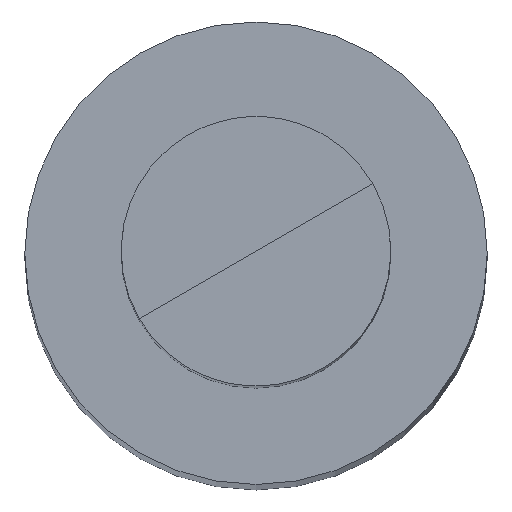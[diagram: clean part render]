
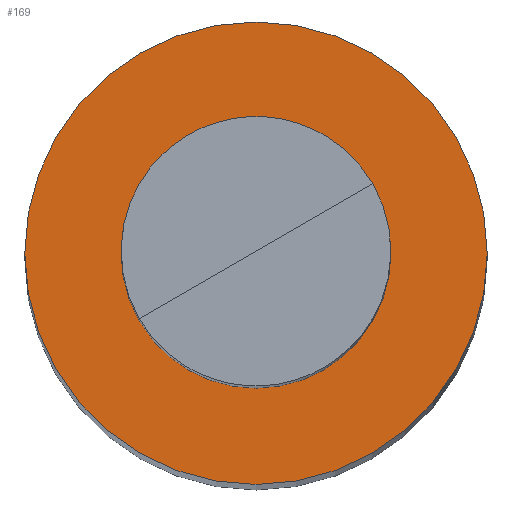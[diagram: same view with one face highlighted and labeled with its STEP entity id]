
A CAD part, top view. The second image highlights one B-rep face of the part: STEP entity #169.
In plain terms, the highlighted planar face has unit normal (0, 0, 1).
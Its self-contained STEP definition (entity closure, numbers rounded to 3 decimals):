
#108=CARTESIAN_POINT('',(1.75,0.,41.));
#109=VERTEX_POINT('',#108);
#110=CARTESIAN_POINT('',(0.0,0.0,41.));
#111=DIRECTION('',(0.0,0.0,-1.0));
#112=DIRECTION('',(-1.0,0.0,0.0));
#113=AXIS2_PLACEMENT_3D('',#110,#111,#112);
#114=CIRCLE('',#113,1.75);
#115=EDGE_CURVE('',#109,#109,#114,.T.);
#135=CARTESIAN_POINT('',(3.,0.,41.));
#136=VERTEX_POINT('',#135);
#137=CARTESIAN_POINT('',(0.0,0.0,41.));
#138=DIRECTION('',(0.0,0.0,-1.0));
#139=DIRECTION('',(-1.0,0.0,0.0));
#140=AXIS2_PLACEMENT_3D('',#137,#138,#139);
#141=CIRCLE('',#140,3.);
#142=EDGE_CURVE('',#136,#136,#141,.T.);
#158=CARTESIAN_POINT('',(0.0,0.0,41.));
#159=DIRECTION('',(0.0,0.0,-1.0));
#160=DIRECTION('',(-1.0,0.0,0.0));
#161=AXIS2_PLACEMENT_3D('',#158,#159,#160);
#162=PLANE('',#161);
#163=ORIENTED_EDGE('',*,*,#142,.F.);
#164=EDGE_LOOP('',(#163));
#165=FACE_OUTER_BOUND('',#164,.T.);
#166=ORIENTED_EDGE('',*,*,#115,.T.);
#167=EDGE_LOOP('',(#166));
#168=FACE_BOUND('',#167,.T.);
#169=ADVANCED_FACE('',(#165,#168),#162,.F.);
